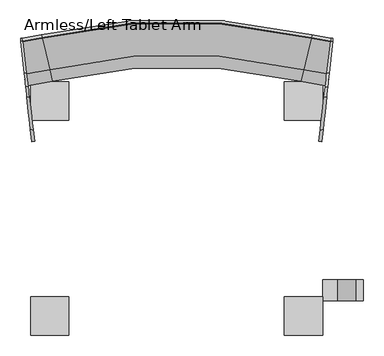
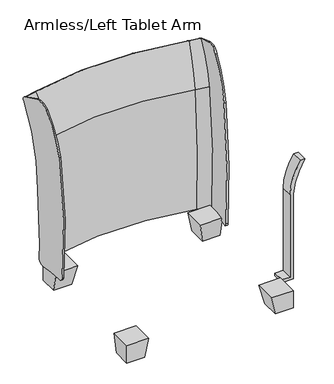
"""IFC4 building model written with IfcOpenShell, lengths in millimetres: furniture geometry, Steelcase Turnstone - Jenny - Seating - Lounge Chair : Armless/Left Tablet Arm."""

from ifc_helpers import new_model, si_unit, point, frame, frame_2d, origin, origin_with_axes, place, context, project, spatial, polyline, circle_curve, ellipse_curve, trimmed, segment, composite_curve, outline, extrude, faceted_brep, source, transform, mapped, element, save
from ifc_brep_helpers import plane_surface, revolved_surface, advanced_brep


def armless_left_tablet_arm_b0379768(model_context):
    return source(origin(), model_context, "Body", "SolidModel", [
        extrude(outline(composite_curve([segment(trimmed(circle_curve(frame_2d((-317.4695755, 631.5743694)), 14.4058816), [point((-317.4695755, 645.9802509))], [point((-317.4695755, 617.1684878))], False, "CARTESIAN"), True, "CONTINUOUS"), segment(trimmed(circle_curve(frame_2d((-317.4695755, 631.5743694)), 14.4058816), [point((-317.4695755, 617.1684878))], [point((-317.4695755, 645.9802509))], False, "CARTESIAN"), True, "CONTINUOUS")], self_intersect=False)), origin_with_axes(), (0.0, 0.0, 1.0), 7.083069),
        extrude(outline(composite_curve([segment(trimmed(circle_curve(frame_2d((318.3480103, 631.2568742)), 14.4535487), [point((318.3480103, 645.7104229))], [point((318.3480103, 616.8033255))], False, "CARTESIAN"), True, "CONTINUOUS"), segment(trimmed(circle_curve(frame_2d((318.3480103, 631.2568742)), 14.4535487), [point((318.3480103, 616.8033255))], [point((318.3480103, 645.7104229))], False, "CARTESIAN"), True, "CONTINUOUS")], self_intersect=False)), origin_with_axes(), (0.0, 0.0, 1.0), 7.083069),
        faceted_brep([(279.1777267, 593.0641473, 7.083069), (279.1777267, 669.2641473, 7.083069), (355.3777267, 669.2641473, 7.083069), (355.3777267, 593.0641473, 7.083069), (261.9561035, 575.8429601, 95.4116322), (355.3777267, 575.8429601, 95.4116322), (355.3777267, 669.2641473, 95.4116322), (261.9561035, 669.2641473, 95.4116322)], [[[0, 1, 2, 3]], [[4, 5, 6, 7]], [[4, 7, 1, 0]], [[7, 6, 2, 1]], [[6, 5, 3, 2]], [[5, 4, 0, 3]]]),
        faceted_brep([(-279.1777267, 593.0641473, 7.083069), (-355.3777267, 593.0641473, 7.083069), (-355.3777267, 669.2641473, 7.083069), (-279.1777267, 669.2641473, 7.083069), (-261.9561035, 575.8429601, 95.4116322), (-261.9561035, 669.2641473, 95.4116322), (-355.3777267, 669.2641473, 95.4116322), (-355.3777267, 575.8429601, 95.4116322)], [[[0, 1, 2, 3]], [[4, 5, 6, 7]], [[4, 7, 1, 0]], [[7, 6, 2, 1]], [[6, 5, 3, 2]], [[5, 4, 0, 3]]]),
        extrude(outline(composite_curve([segment(trimmed(circle_curve(frame_2d((-317.4695755, 90.6150358)), 14.4058816), [point((-317.4695755, 76.2091543))], [point((-317.4695755, 105.0209174))], False, "CARTESIAN"), True, "CONTINUOUS"), segment(trimmed(circle_curve(frame_2d((-317.4695755, 90.6150358)), 14.4058816), [point((-317.4695755, 105.0209174))], [point((-317.4695755, 76.2091543))], False, "CARTESIAN"), True, "CONTINUOUS")], self_intersect=False)), origin_with_axes(), (0.0, 0.0, 1.0), 7.083069),
        extrude(outline(composite_curve([segment(trimmed(circle_curve(frame_2d((318.3480103, 90.932531)), 14.4535487), [point((318.3480103, 76.4789822))], [point((318.3480103, 105.3860797))], False, "CARTESIAN"), True, "CONTINUOUS"), segment(trimmed(circle_curve(frame_2d((318.3480103, 90.932531)), 14.4535487), [point((318.3480103, 105.3860797))], [point((318.3480103, 76.4789822))], False, "CARTESIAN"), True, "CONTINUOUS")], self_intersect=False)), origin_with_axes(), (0.0, 0.0, 1.0), 7.083069),
        faceted_brep([(279.1777267, 129.1252579, 7.083069), (355.3777267, 129.1252579, 7.083069), (355.3777267, 52.9252579, 7.083069), (279.1777267, 52.9252579, 7.083069), (261.9561035, 146.3464451, 85.2737648), (261.9561035, 52.9252579, 85.2737648), (355.3777267, 52.9252579, 85.2737648), (355.3777267, 146.3464451, 85.2737648)], [[[0, 1, 2, 3]], [[4, 5, 6, 7]], [[4, 7, 1, 0]], [[7, 6, 2, 1]], [[6, 5, 3, 2]], [[5, 4, 0, 3]]]),
        faceted_brep([(-279.1777267, 129.1252579, 7.083069), (-279.1777267, 52.9252579, 7.083069), (-355.3777267, 52.9252579, 7.083069), (-355.3777267, 129.1252579, 7.083069), (-261.9561035, 146.3464451, 85.2737648), (-355.3777267, 146.3464451, 85.2737648), (-355.3777267, 52.9252579, 85.2737648), (-261.9561035, 52.9252579, 85.2737648)], [[[0, 1, 2, 3]], [[4, 5, 6, 7]], [[4, 7, 1, 0]], [[7, 6, 2, 1]], [[6, 5, 3, 2]], [[5, 4, 0, 3]]]),
        extrude(outline(composite_curve([segment(trimmed(circle_curve(frame_2d((419.0031767, 717.5978054)), 315.1303859), [point((451.6044174, 404.1583068))], [point((592.311266, 454.4030746))], True, "CARTESIAN"), True, "CONTINUOUS"), segment(polyline([(592.311266, 454.4030746), (592.311266, 436.9906051)]), True, "CONTINUOUS"), segment(trimmed(circle_curve(frame_2d((452.3250069, 629.4150539)), 237.9565533), [point((592.311266, 436.9906051))], [point((452.3250069, 391.4585006))], False, "CARTESIAN"), True, "CONTINUOUS"), segment(polyline([(452.3250069, 391.4585006), (81.9210443, 391.4585006), (81.9210443, 355.6), (69.2210428, 355.6), (69.2210428, 404.1583068), (451.6044174, 404.1583068)]), True, "CONTINUOUS")], self_intersect=False)), frame((0.0, 136.9954231, 0.0), z_axis=(0.0, 1.0, 0.0), x_axis=(0.0, 0.0, 1.0)), (0.0, 0.0, 1.0), 50.8000242),
        advanced_brep(
        [(-365.0328558, 688.9118721, 614.3798536), (-374.2086501, 766.5758751, 782.0850534), (-374.4577532, 768.6842856, 781.0193185), (-375.0846857, 773.9906478, 763.3929272), (-364.7240839, 686.2984239, 412.1857232), (-363.5844919, 676.6529077, 226.5942002), (-363.549176, 676.3539931, 111.3923483), (-362.6401057, 668.6596146, 90.0869227), (-327.0674538, 775.0009474, 782.0850534), (-308.774252, 698.9664071, 614.3798536), (-327.5640748, 777.0651215, 781.0193185), (-328.8139506, 782.2601513, 763.3929272), (-308.1586729, 696.4077914, 412.1857232), (-305.8867403, 686.964647, 226.5942002), (-305.8163331, 686.6720039, 111.3923483), (-304.0039772, 679.1390607, 90.0869227), (327.0674538, 775.0009474, 782.0850534), (308.774252, 698.9664071, 614.3798536), (327.5640748, 777.0651215, 781.0193185), (328.8139506, 782.2601513, 763.3929272), (308.1586729, 696.4077914, 412.1857232), (305.8867403, 686.964647, 226.5942002), (305.8163331, 686.6720039, 111.3923483), (304.0039772, 679.1390607, 90.0869227), (365.0328558, 688.9118721, 614.3798536), (362.6401057, 668.6596146, 90.0869227), (363.549176, 676.3539931, 111.3923483), (363.5844919, 676.6529077, 226.5942002), (364.7240839, 686.2984239, 412.1857232), (375.0846857, 773.9906478, 763.3929272), (374.4577532, 768.6842856, 781.0193185), (374.2086501, 766.5758751, 782.0850534)],
        [
            (0, 1, circle_curve(frame((-406.9820142, 1043.9699138, 549.7445151), z_axis=(-0.9930928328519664, -0.11733126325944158, 0.0), x_axis=(-0.11733126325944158, 0.9930928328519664, 0.0)), 363.3230957)),
            (1, 2),
            (2, 3, circle_curve(frame((-373.7892515, 763.0260816, 769.6690835), z_axis=(-0.9930928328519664, -0.11733126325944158, 0.0), x_axis=(-0.11733126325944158, 0.9930928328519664, 0.0)), 12.7)),
            (3, 4, circle_curve(frame((-444.1840732, 1358.8484643, 428.618251), z_axis=(0.9930928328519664, 0.11733126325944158, 0.0), x_axis=(-0.11733126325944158, 0.9930928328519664, 0.0)), 677.4270991)),
            (4, 5, circle_curve(frame((-222.1914301, -520.0991972, 382.7096079), z_axis=(-0.9930928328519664, -0.11733126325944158, 0.0), x_axis=(-0.11733126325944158, 0.9930928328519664, 0.0)), 1215.145925)),
            (5, 6, circle_curve(frame((-416.8275775, 1127.3028473, 167.8072561), z_axis=(0.9930928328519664, 0.11733126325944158, 0.0), x_axis=(-0.11733126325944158, 0.9930928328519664, 0.0)), 457.5763313)),
            (6, 7, circle_curve(frame((-360.6485798, 651.8033223, 108.3209937), z_axis=(-0.9930928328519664, -0.11733126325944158, 0.0), x_axis=(-0.11733126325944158, 0.9930928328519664, 0.0)), 24.9114856)),
            (7, 0, circle_curve(frame((-582.1375659, 2526.4880272, 279.8645269), z_axis=(-0.9930928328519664, -0.11733126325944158, 0.0), x_axis=(-0.11733126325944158, 0.9930928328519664, 0.0)), 1880.3513194)),
            (8, 1, circle_curve(frame((-421.6517332, 1168.1345426, 782.0850534), z_axis=(0.0, 0.0, -1.0), x_axis=(0.1173312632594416, -0.9930928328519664, 0.0)), 404.3515915)),
            (0, 9, circle_curve(frame((-421.6517332, 1168.1345426, 614.3798536), z_axis=(0.0, 0.0, 1.0), x_axis=(0.1173312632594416, -0.9930928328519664, 0.0)), 482.5557637)),
            (9, 8, circle_curve(frame((-392.4056407, 1046.5750026, 549.7445151), z_axis=(-0.9722568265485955, -0.2339159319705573, 0.0), x_axis=(-0.2339159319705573, 0.9722568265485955, 0.0)), 363.3230957)),
            (10, 2, circle_curve(frame((-421.6517332, 1168.1345426, 781.0193185), z_axis=(0.0, 0.0, -1.0), x_axis=(0.1173312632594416, -0.9930928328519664, 0.0)), 402.2285166)),
            (8, 10),
            (11, 3, circle_curve(frame((-421.6517332, 1168.1345426, 763.3929272), z_axis=(0.0, 0.0, -1.0), x_axis=(0.1173312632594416, -0.9930928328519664, 0.0)), 396.8852475)),
            (10, 11, circle_curve(frame((-326.2313253, 771.5256318, 769.6690835), z_axis=(-0.9722568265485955, -0.23391593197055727, 0.0), x_axis=(-0.23391593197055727, 0.9722568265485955, 0.0)), 12.7)),
            (12, 4, circle_curve(frame((-421.6517332, 1168.1345426, 412.1857232), z_axis=(0.0, 0.0, -1.0), x_axis=(0.1173312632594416, -0.9930928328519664, 0.0)), 485.187389)),
            (11, 12, circle_curve(frame((-466.5730368, 1354.8471098, 428.618251), z_axis=(0.9722568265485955, 0.23391593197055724, 0.0), x_axis=(-0.23391593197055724, 0.9722568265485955, 0.0)), 677.4270991)),
            (13, 5, circle_curve(frame((-421.6517332, 1168.1345426, 226.5942002), z_axis=(0.0, 0.0, -1.0), x_axis=(0.1173312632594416, -0.9930928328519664, 0.0)), 494.8999918)),
            (12, 13, circle_curve(frame((-24.0003198, -484.6784917, 382.7096079), z_axis=(-0.9722568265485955, -0.23391593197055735, 0.0), x_axis=(-0.23391593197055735, 0.9722568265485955, 0.0)), 1215.145925)),
            (14, 6, circle_curve(frame((-421.6517332, 1168.1345426, 111.3923483), z_axis=(0.0, 0.0, -1.0), x_axis=(0.1173312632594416, -0.9930928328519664, 0.0)), 495.2009855)),
            (13, 14, circle_curve(frame((-412.0341186, 1128.159534, 167.8072561), z_axis=(0.9722568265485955, 0.23391593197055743, 0.0), x_axis=(-0.23391593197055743, 0.9722568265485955, 0.0)), 457.5763313)),
            (15, 7, circle_curve(frame((-421.6517332, 1168.1345426, 90.0869227), z_axis=(0.0, 0.0, -1.0), x_axis=(0.1173312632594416, -0.9930928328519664, 0.0)), 502.9488799)),
            (14, 15, circle_curve(frame((-300.0335978, 662.6364289, 108.3209937), z_axis=(-0.9722568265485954, -0.2339159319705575, 0.0), x_axis=(-0.2339159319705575, 0.9722568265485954, 0.0)), 24.9114856)),
            (15, 9, circle_curve(frame((-741.6022058, 2497.9885145, 279.8645269), z_axis=(-0.9722568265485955, -0.23391593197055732, 0.0), x_axis=(-0.23391593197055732, 0.9722568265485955, 0.0)), 1880.3513194)),
            (16, 8, circle_curve(frame((0.0, -584.4343079, 782.0850534), z_axis=(0.0, 0.0, 1.0), x_axis=(-0.23391593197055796, 0.9722568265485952, 0.0)), 1398.2264955)),
            (9, 17, circle_curve(frame((0.0, -584.4343079, 614.3798536), z_axis=(0.0, 0.0, -1.0), x_axis=(-0.23391593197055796, 0.9722568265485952, 0.0)), 1320.0223232)),
            (17, 16, circle_curve(frame((392.4056407, 1046.5750026, 549.7445151), z_axis=(-0.972256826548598, 0.23391593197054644, 0.0), x_axis=(0.23391593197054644, 0.972256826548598, 0.0)), 363.3230957)),
            (18, 10, circle_curve(frame((0.0, -584.4343079, 781.0193185), z_axis=(0.0, 0.0, 1.0), x_axis=(-0.23391593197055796, 0.9722568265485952, 0.0)), 1400.3495704)),
            (16, 18),
            (19, 11, circle_curve(frame((0.0, -584.4343079, 763.3929272), z_axis=(0.0, 0.0, 1.0), x_axis=(-0.23391593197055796, 0.9722568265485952, 0.0)), 1405.6928394)),
            (18, 19, circle_curve(frame((326.2313253, 771.5256318, 769.6690835), z_axis=(-0.9722568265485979, 0.233915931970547, 0.0), x_axis=(0.233915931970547, 0.9722568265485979, 0.0)), 12.7)),
            (20, 12, circle_curve(frame((0.0, -584.4343079, 412.1857232), z_axis=(0.0, 0.0, 1.0), x_axis=(-0.23391593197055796, 0.9722568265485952, 0.0)), 1317.3906979)),
            (19, 20, circle_curve(frame((466.5730368, 1354.8471098, 428.618251), z_axis=(0.9722568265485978, -0.2339159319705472, 0.0), x_axis=(0.2339159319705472, 0.9722568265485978, 0.0)), 677.4270991)),
            (21, 13, circle_curve(frame((0.0, -584.4343079, 226.5942002), z_axis=(0.0, 0.0, 1.0), x_axis=(-0.23391593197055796, 0.9722568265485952, 0.0)), 1307.6780951)),
            (20, 21, circle_curve(frame((24.0003198, -484.6784917, 382.7096079), z_axis=(-0.972256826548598, 0.2339159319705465, 0.0), x_axis=(0.2339159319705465, 0.972256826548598, 0.0)), 1215.145925)),
            (22, 14, circle_curve(frame((0.0, -584.4343079, 111.3923483), z_axis=(0.0, 0.0, 1.0), x_axis=(-0.23391593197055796, 0.9722568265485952, 0.0)), 1307.3771015)),
            (21, 22, circle_curve(frame((412.0341186, 1128.159534, 167.8072561), z_axis=(0.972256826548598, -0.2339159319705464, 0.0), x_axis=(0.2339159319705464, 0.972256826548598, 0.0)), 457.5763313)),
            (23, 15, circle_curve(frame((0.0, -584.4343079, 90.0869227), z_axis=(0.0, 0.0, 1.0), x_axis=(-0.23391593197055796, 0.9722568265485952, 0.0)), 1299.629207)),
            (22, 23, circle_curve(frame((300.0335978, 662.6364289, 108.3209937), z_axis=(-0.972256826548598, 0.2339159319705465, 0.0), x_axis=(0.2339159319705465, 0.972256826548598, 0.0)), 24.9114856)),
            (23, 17, circle_curve(frame((741.6022058, 2497.9885145, 279.8645269), z_axis=(-0.9722568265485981, 0.23391593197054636, 0.0), x_axis=(0.23391593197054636, 0.9722568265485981, 0.0)), 1880.3513194)),
            (24, 25, circle_curve(frame((582.1375659, 2526.4880272, 279.8645269), z_axis=(0.9930928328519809, -0.11733126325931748, 0.0), x_axis=(0.11733126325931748, 0.9930928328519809, 0.0)), 1880.3513194)),
            (25, 26, circle_curve(frame((360.6485798, 651.8033223, 108.3209937), z_axis=(0.9930928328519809, -0.11733126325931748, 0.0), x_axis=(0.11733126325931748, 0.9930928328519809, 0.0)), 24.9114856)),
            (26, 27, circle_curve(frame((416.8275775, 1127.3028473, 167.8072561), z_axis=(-0.9930928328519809, 0.11733126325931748, 0.0), x_axis=(0.11733126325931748, 0.9930928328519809, 0.0)), 457.5763313)),
            (27, 28, circle_curve(frame((222.1914301, -520.0991972, 382.7096079), z_axis=(0.9930928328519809, -0.11733126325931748, 0.0), x_axis=(0.11733126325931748, 0.9930928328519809, 0.0)), 1215.145925)),
            (28, 29, circle_curve(frame((444.1840732, 1358.8484643, 428.618251), z_axis=(-0.9930928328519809, 0.11733126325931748, 0.0), x_axis=(0.11733126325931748, 0.9930928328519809, 0.0)), 677.4270991)),
            (29, 30, circle_curve(frame((373.7892515, 763.0260816, 769.6690835), z_axis=(0.9930928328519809, -0.11733126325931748, 0.0), x_axis=(0.11733126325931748, 0.9930928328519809, 0.0)), 12.7)),
            (30, 31),
            (31, 24, circle_curve(frame((406.9820142, 1043.9699138, 549.7445151), z_axis=(0.9930928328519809, -0.11733126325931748, 0.0), x_axis=(0.11733126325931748, 0.9930928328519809, 0.0)), 363.3230957)),
            (31, 16, circle_curve(frame((421.6517332, 1168.1345426, 782.0850534), z_axis=(0.0, 0.0, -1.0), x_axis=(-0.2339159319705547, -0.972256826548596, 0.0)), 404.3515915)),
            (17, 24, circle_curve(frame((421.6517332, 1168.1345426, 614.3798536), z_axis=(0.0, 0.0, 1.0), x_axis=(-0.2339159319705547, -0.972256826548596, 0.0)), 482.5557637)),
            (30, 18, circle_curve(frame((421.6517332, 1168.1345426, 781.0193185), z_axis=(0.0, 0.0, -1.0), x_axis=(-0.2339159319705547, -0.972256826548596, 0.0)), 402.2285166)),
            (29, 19, circle_curve(frame((421.6517332, 1168.1345426, 763.3929272), z_axis=(0.0, 0.0, -1.0), x_axis=(-0.2339159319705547, -0.972256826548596, 0.0)), 396.8852475)),
            (28, 20, circle_curve(frame((421.6517332, 1168.1345426, 412.1857232), z_axis=(0.0, 0.0, -1.0), x_axis=(-0.2339159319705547, -0.972256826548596, 0.0)), 485.187389)),
            (27, 21, circle_curve(frame((421.6517332, 1168.1345426, 226.5942002), z_axis=(0.0, 0.0, -1.0), x_axis=(-0.2339159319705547, -0.972256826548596, 0.0)), 494.8999918)),
            (26, 22, circle_curve(frame((421.6517332, 1168.1345426, 111.3923483), z_axis=(0.0, 0.0, -1.0), x_axis=(-0.2339159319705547, -0.972256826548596, 0.0)), 495.2009855)),
            (25, 23, circle_curve(frame((421.6517332, 1168.1345426, 90.0869227), z_axis=(0.0, 0.0, -1.0), x_axis=(-0.2339159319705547, -0.972256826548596, 0.0)), 502.9488799)),
        ],
        [
            plane_surface(frame((-355.6, 609.0720985, 0.0), z_axis=(-0.9930928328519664, -0.1173312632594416, 0.0), x_axis=(0.0, 0.0, 1.0))),
            revolved_surface(trimmed(ellipse_curve(frame((-406.9820142, 1043.9699138, 549.7445151), z_axis=(-0.9930928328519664, -0.11733126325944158, 0.0), x_axis=(-0.11733126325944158, 0.9930928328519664, 0.0)), 363.3230957, 363.3230957), [point((-365.0328558, 688.9118721, 614.3798536))], [point((-374.2086501, 766.5758751, 782.0850534))], True, "CARTESIAN"), (-421.6517332, 1168.1345426, 0.0), (0.0, 0.0, 1.0)),
            revolved_surface(polyline([(-374.2086501, 766.5758751, 782.0850534), (-374.4577532, 768.6842856, 781.0193185)]), (-421.6517332, 1168.1345426, 0.0), (0.0, 0.0, 1.0)),
            revolved_surface(trimmed(ellipse_curve(frame((-373.7892515, 763.0260816, 769.6690835), z_axis=(-0.9930928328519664, -0.11733126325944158, 0.0), x_axis=(-0.11733126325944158, 0.9930928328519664, 0.0)), 12.7, 12.7), [point((-374.4577532, 768.6842856, 781.0193185))], [point((-375.0846857, 773.9906478, 763.3929272))], True, "CARTESIAN"), (-421.6517332, 1168.1345426, 0.0), (0.0, 0.0, 1.0)),
            revolved_surface(trimmed(ellipse_curve(frame((-444.1840732, 1358.8484643, 428.618251), z_axis=(0.9930928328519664, 0.11733126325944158, 0.0), x_axis=(-0.11733126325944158, 0.9930928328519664, 0.0)), 677.4270991, 677.4270991), [point((-375.0846857, 773.9906478, 763.3929272))], [point((-364.7240839, 686.2984239, 412.1857232))], True, "CARTESIAN"), (-421.6517332, 1168.1345426, 0.0), (0.0, 0.0, 1.0)),
            revolved_surface(trimmed(ellipse_curve(frame((-222.1914301, -520.0991972, 382.7096079), z_axis=(-0.9930928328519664, -0.11733126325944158, 0.0), x_axis=(-0.11733126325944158, 0.9930928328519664, 0.0)), 1215.145925, 1215.145925), [point((-364.7240839, 686.2984239, 412.1857232))], [point((-363.5844919, 676.6529077, 226.5942002))], True, "CARTESIAN"), (-421.6517332, 1168.1345426, 0.0), (0.0, 0.0, 1.0)),
            revolved_surface(trimmed(ellipse_curve(frame((-416.8275775, 1127.3028473, 167.8072561), z_axis=(0.9930928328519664, 0.11733126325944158, 0.0), x_axis=(-0.11733126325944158, 0.9930928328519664, 0.0)), 457.5763313, 457.5763313), [point((-363.5844919, 676.6529077, 226.5942002))], [point((-363.549176, 676.3539931, 111.3923483))], True, "CARTESIAN"), (-421.6517332, 1168.1345426, 0.0), (0.0, 0.0, 1.0)),
            revolved_surface(trimmed(ellipse_curve(frame((-360.6485798, 651.8033223, 108.3209937), z_axis=(-0.9930928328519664, -0.11733126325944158, 0.0), x_axis=(-0.11733126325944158, 0.9930928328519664, 0.0)), 24.9114856, 24.9114856), [point((-363.549176, 676.3539931, 111.3923483))], [point((-362.6401057, 668.6596146, 90.0869227))], True, "CARTESIAN"), (-421.6517332, 1168.1345426, 0.0), (0.0, 0.0, 1.0)),
            revolved_surface(trimmed(ellipse_curve(frame((-582.1375659, 2526.4880272, 279.8645269), z_axis=(-0.9930928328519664, -0.11733126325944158, 0.0), x_axis=(-0.11733126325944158, 0.9930928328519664, 0.0)), 1880.3513194, 1880.3513194), [point((-362.6401057, 668.6596146, 90.0869227))], [point((-365.0328558, 688.9118721, 614.3798536))], True, "CARTESIAN"), (-421.6517332, 1168.1345426, 0.0), (0.0, 0.0, 1.0)),
            revolved_surface(trimmed(ellipse_curve(frame((-392.4056407, 1046.5750026, 549.7445151), z_axis=(-0.9722568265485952, -0.23391593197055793, 0.0), x_axis=(-0.23391593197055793, 0.9722568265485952, 0.0)), 363.3230957, 363.3230957), [point((-308.774252, 698.9664071, 614.3798536))], [point((-327.0674538, 775.0009474, 782.0850534))], True, "CARTESIAN"), (0.0, -584.4343079, 0.0), (0.0, 0.0, -1.0)),
            revolved_surface(polyline([(-327.0674538, 775.0009474, 782.0850534), (-327.5640748, 777.0651215, 781.0193185)]), (0.0, -584.4343079, 0.0), (0.0, 0.0, -1.0)),
            revolved_surface(trimmed(ellipse_curve(frame((-326.2313253, 771.5256318, 769.6690835), z_axis=(-0.9722568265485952, -0.23391593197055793, 0.0), x_axis=(-0.23391593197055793, 0.9722568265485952, 0.0)), 12.7, 12.7), [point((-327.5640748, 777.0651215, 781.0193185))], [point((-328.8139506, 782.2601513, 763.3929272))], True, "CARTESIAN"), (0.0, -584.4343079, 0.0), (0.0, 0.0, -1.0)),
            revolved_surface(trimmed(ellipse_curve(frame((-466.5730368, 1354.8471098, 428.618251), z_axis=(0.9722568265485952, 0.23391593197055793, 0.0), x_axis=(-0.23391593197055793, 0.9722568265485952, 0.0)), 677.4270991, 677.4270991), [point((-328.8139506, 782.2601513, 763.3929272))], [point((-308.1586729, 696.4077914, 412.1857232))], True, "CARTESIAN"), (0.0, -584.4343079, 0.0), (0.0, 0.0, -1.0)),
            revolved_surface(trimmed(ellipse_curve(frame((-24.0003198, -484.6784917, 382.7096079), z_axis=(-0.9722568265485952, -0.23391593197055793, 0.0), x_axis=(-0.23391593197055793, 0.9722568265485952, 0.0)), 1215.145925, 1215.145925), [point((-308.1586729, 696.4077914, 412.1857232))], [point((-305.8867403, 686.964647, 226.5942002))], True, "CARTESIAN"), (0.0, -584.4343079, 0.0), (0.0, 0.0, -1.0)),
            revolved_surface(trimmed(ellipse_curve(frame((-412.0341186, 1128.159534, 167.8072561), z_axis=(0.9722568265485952, 0.23391593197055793, 0.0), x_axis=(-0.23391593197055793, 0.9722568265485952, 0.0)), 457.5763313, 457.5763313), [point((-305.8867403, 686.964647, 226.5942002))], [point((-305.8163331, 686.6720039, 111.3923483))], True, "CARTESIAN"), (0.0, -584.4343079, 0.0), (0.0, 0.0, -1.0)),
            revolved_surface(trimmed(ellipse_curve(frame((-300.0335978, 662.6364289, 108.3209937), z_axis=(-0.9722568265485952, -0.23391593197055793, 0.0), x_axis=(-0.23391593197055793, 0.9722568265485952, 0.0)), 24.9114856, 24.9114856), [point((-305.8163331, 686.6720039, 111.3923483))], [point((-304.0039772, 679.1390607, 90.0869227))], True, "CARTESIAN"), (0.0, -584.4343079, 0.0), (0.0, 0.0, -1.0)),
            revolved_surface(trimmed(ellipse_curve(frame((-741.6022058, 2497.9885145, 279.8645269), z_axis=(-0.9722568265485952, -0.23391593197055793, 0.0), x_axis=(-0.23391593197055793, 0.9722568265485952, 0.0)), 1880.3513194, 1880.3513194), [point((-304.0039772, 679.1390607, 90.0869227))], [point((-308.774252, 698.9664071, 614.3798536))], True, "CARTESIAN"), (0.0, -584.4343079, 0.0), (0.0, 0.0, -1.0)),
            plane_surface(frame((355.6, 609.0720985, 0.0), z_axis=(0.993092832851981, -0.11733126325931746, 0.0), x_axis=(0.0, 0.0, 1.0))),
            revolved_surface(trimmed(ellipse_curve(frame((392.4056407, 1046.5750026, 549.7445151), z_axis=(-0.972256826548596, 0.2339159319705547, 0.0), x_axis=(0.2339159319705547, 0.972256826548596, 0.0)), 363.3230957, 363.3230957), [point((308.774252, 698.9664071, 614.3798536))], [point((327.0674538, 775.0009474, 782.0850534))], True, "CARTESIAN"), (421.6517332, 1168.1345426, 0.0), (0.0, 0.0, 1.0)),
            revolved_surface(polyline([(327.0674538, 775.0009474, 782.0850534), (327.5640748, 777.0651215, 781.0193185)]), (421.6517332, 1168.1345426, 0.0), (0.0, 0.0, 1.0)),
            revolved_surface(trimmed(ellipse_curve(frame((326.2313253, 771.5256318, 769.6690835), z_axis=(-0.972256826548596, 0.2339159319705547, 0.0), x_axis=(0.2339159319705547, 0.972256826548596, 0.0)), 12.7, 12.7), [point((327.5640748, 777.0651215, 781.0193185))], [point((328.8139506, 782.2601513, 763.3929272))], True, "CARTESIAN"), (421.6517332, 1168.1345426, 0.0), (0.0, 0.0, 1.0)),
            revolved_surface(trimmed(ellipse_curve(frame((466.5730368, 1354.8471098, 428.618251), z_axis=(0.972256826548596, -0.2339159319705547, 0.0), x_axis=(0.2339159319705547, 0.972256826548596, 0.0)), 677.4270991, 677.4270991), [point((328.8139506, 782.2601513, 763.3929272))], [point((308.1586729, 696.4077914, 412.1857232))], True, "CARTESIAN"), (421.6517332, 1168.1345426, 0.0), (0.0, 0.0, 1.0)),
            revolved_surface(trimmed(ellipse_curve(frame((24.0003198, -484.6784917, 382.7096079), z_axis=(-0.972256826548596, 0.2339159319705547, 0.0), x_axis=(0.2339159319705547, 0.972256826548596, 0.0)), 1215.145925, 1215.145925), [point((308.1586729, 696.4077914, 412.1857232))], [point((305.8867403, 686.964647, 226.5942002))], True, "CARTESIAN"), (421.6517332, 1168.1345426, 0.0), (0.0, 0.0, 1.0)),
            revolved_surface(trimmed(ellipse_curve(frame((412.0341186, 1128.159534, 167.8072561), z_axis=(0.972256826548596, -0.2339159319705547, 0.0), x_axis=(0.2339159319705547, 0.972256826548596, 0.0)), 457.5763313, 457.5763313), [point((305.8867403, 686.964647, 226.5942002))], [point((305.8163331, 686.6720039, 111.3923483))], True, "CARTESIAN"), (421.6517332, 1168.1345426, 0.0), (0.0, 0.0, 1.0)),
            revolved_surface(trimmed(ellipse_curve(frame((300.0335978, 662.6364289, 108.3209937), z_axis=(-0.972256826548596, 0.2339159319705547, 0.0), x_axis=(0.2339159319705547, 0.972256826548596, 0.0)), 24.9114856, 24.9114856), [point((305.8163331, 686.6720039, 111.3923483))], [point((304.0039772, 679.1390607, 90.0869227))], True, "CARTESIAN"), (421.6517332, 1168.1345426, 0.0), (0.0, 0.0, 1.0)),
            revolved_surface(trimmed(ellipse_curve(frame((741.6022058, 2497.9885145, 279.8645269), z_axis=(-0.972256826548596, 0.2339159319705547, 0.0), x_axis=(0.2339159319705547, 0.972256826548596, 0.0)), 1880.3513194, 1880.3513194), [point((304.0039772, 679.1390607, 90.0869227))], [point((308.774252, 698.9664071, 614.3798536))], True, "CARTESIAN"), (421.6517332, 1168.1345426, 0.0), (0.0, 0.0, 1.0)),
        ],
        [
            (0, [[1, 2, 3, 4, 5, 6, 7, 8]]),
            (1, [[9, -1, 10, 11]]),
            (2, [[12, -2, -9, 13]]),
            (3, [[14, -3, -12, 15]]),
            (4, [[16, -4, -14, 17]]),
            (5, [[18, -5, -16, 19]]),
            (6, [[20, -6, -18, 21]]),
            (7, [[22, -7, -20, 23]]),
            (8, [[-10, -8, -22, 24]]),
            (9, [[25, -11, 26, 27]]),
            (10, [[28, -13, -25, 29]]),
            (11, [[30, -15, -28, 31]]),
            (12, [[32, -17, -30, 33]]),
            (13, [[34, -19, -32, 35]]),
            (14, [[36, -21, -34, 37]]),
            (15, [[38, -23, -36, 39]]),
            (16, [[-26, -24, -38, 40]]),
            (17, [[41, 42, 43, 44, 45, 46, 47, 48]]),
            (18, [[49, -27, 50, -48]]),
            (19, [[51, -29, -49, -47]]),
            (20, [[52, -31, -51, -46]]),
            (21, [[53, -33, -52, -45]]),
            (22, [[54, -35, -53, -44]]),
            (23, [[55, -37, -54, -43]]),
            (24, [[56, -39, -55, -42]]),
            (25, [[-50, -40, -56, -41]]),
        ],
    ),
        advanced_brep(
        [(371.0231422, 690.4168678, 813.9027777), (367.5078894, 657.2478941, 814.4538477), (364.8381433, 632.056893, 797.7221008), (356.4068462, 552.5014564, 627.8736036), (354.3284196, 532.8899867, 97.0710008), (356.3949504, 552.3892108, 81.9987921), (366.5367036, 648.0840483, 83.5957513), (369.4625291, 675.6913448, 111.3923483), (369.4942508, 675.9906622, 226.5942002), (370.5178614, 685.6491753, 412.1857232), (379.8240192, 773.4595598, 763.3929272), (379.2608923, 768.1460475, 781.0193185), (365.286616, 691.0597009, 813.9027777), (374.4577532, 768.6842856, 781.0193185), (375.0846857, 773.9906478, 763.3929272), (364.7240839, 686.2984239, 412.1857232), (363.5844919, 676.6529077, 226.5942002), (363.549176, 676.3539931, 111.3923483), (360.2918368, 648.7838459, 83.5957513), (349.0009614, 553.2177786, 81.9987921), (346.7002803, 533.7447933, 97.0710008), (349.0142051, 553.3298731, 627.8736036), (358.4008193, 632.7782572, 797.7221008), (361.3730638, 657.9353605, 814.4538477)],
        [
            (0, 1, circle_curve(frame((369.1763053, 672.9906155, 762.9432742), z_axis=(0.9944309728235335, -0.10538994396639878, 0.0), x_axis=(-0.10538994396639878, -0.9944309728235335, 0.0)), 53.8883667)),
            (1, 2, circle_curve(frame((369.1763053, 672.9906155, 762.9432742), z_axis=(0.9944309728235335, -0.10538994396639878, 0.0), x_axis=(-0.10538994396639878, -0.9944309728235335, 0.0)), 53.8883667)),
            (2, 3, circle_curve(frame((394.086654, 908.03792, 563.2382651), z_axis=(0.9944309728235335, -0.10538994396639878, 0.0), x_axis=(-0.10538994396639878, -0.9944309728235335, 0.0)), 363.3230957)),
            (3, 4, circle_curve(frame((551.415854, 2392.5536479, 293.3582769), z_axis=(0.9944309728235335, -0.10538994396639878, 0.0), x_axis=(-0.10538994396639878, -0.9944309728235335, 0.0)), 1880.3513194)),
            (4, 5, circle_curve(frame((356.1164347, 549.7612128, 98.8517567), z_axis=(0.9944309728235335, -0.10538994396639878, 0.0), x_axis=(-0.10538994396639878, -0.9944309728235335, 0.0)), 17.0589085)),
            (5, 6, circle_curve(frame((362.0675508, 605.9143321, -261.2499371), z_axis=(-0.9944309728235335, 0.10538994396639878, 0.0), x_axis=(-0.10538994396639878, -0.9944309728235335, 0.0)), 347.443243)),
            (6, 7, circle_curve(frame((366.8571394, 651.1075933, 108.3209937), z_axis=(0.9944309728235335, -0.10538994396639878, 0.0), x_axis=(-0.10538994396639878, -0.9944309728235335, 0.0)), 24.9114856)),
            (7, 8, circle_curve(frame((417.3185531, 1127.2478287, 167.8072561), z_axis=(-0.9944309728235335, 0.10538994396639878, 0.0), x_axis=(-0.10538994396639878, -0.9944309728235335, 0.0)), 457.5763313)),
            (8, 9, circle_curve(frame((242.4913834, -522.3740028, 382.7096079), z_axis=(0.9944309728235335, -0.10538994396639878, 0.0), x_axis=(-0.10538994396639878, -0.9944309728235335, 0.0)), 1215.145925)),
            (9, 10, circle_curve(frame((441.8908577, 1359.1054412, 428.618251), z_axis=(-0.9944309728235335, 0.10538994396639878, 0.0), x_axis=(-0.10538994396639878, -0.9944309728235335, 0.0)), 677.4270991)),
            (10, 11, circle_curve(frame((378.660427, 762.4802194, 769.6690835), z_axis=(0.9944309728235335, -0.10538994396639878, 0.0), x_axis=(-0.10538994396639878, -0.9944309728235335, 0.0)), 12.7)),
            (11, 0, circle_curve(frame((349.3215569, 485.6465852, 215.0940543), z_axis=(0.9944309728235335, -0.10538994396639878, 0.0), x_axis=(-0.10538994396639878, -0.9944309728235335, 0.0)), 633.2248531)),
            (12, 13, circle_curve(frame((341.1261096, 486.5649641, 215.0940543), z_axis=(-0.9930928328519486, 0.11733126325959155, 0.0), x_axis=(-0.11733126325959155, -0.9930928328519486, 0.0)), 633.2248531)),
            (13, 14, circle_curve(frame((373.7892515, 763.0260816, 769.6690835), z_axis=(-0.9930928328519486, 0.11733126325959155, 0.0), x_axis=(-0.11733126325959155, -0.9930928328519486, 0.0)), 12.7)),
            (14, 15, circle_curve(frame((444.1840732, 1358.8484643, 428.618251), z_axis=(0.9930928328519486, -0.11733126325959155, 0.0), x_axis=(-0.11733126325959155, -0.9930928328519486, 0.0)), 677.4270991)),
            (15, 16, circle_curve(frame((222.1914301, -520.0991972, 382.7096079), z_axis=(-0.9930928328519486, 0.11733126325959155, 0.0), x_axis=(-0.11733126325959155, -0.9930928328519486, 0.0)), 1215.145925)),
            (16, 17, circle_curve(frame((416.8275775, 1127.3028473, 167.8072561), z_axis=(0.9930928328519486, -0.11733126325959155, 0.0), x_axis=(-0.11733126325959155, -0.9930928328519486, 0.0)), 457.5763313)),
            (17, 18, circle_curve(frame((360.6485798, 651.8033223, 108.3209937), z_axis=(-0.9930928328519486, 0.11733126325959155, 0.0), x_axis=(-0.11733126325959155, -0.9930928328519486, 0.0)), 24.9114856)),
            (18, 19, circle_curve(frame((355.3163018, 606.6708747, -261.2499371), z_axis=(0.9930928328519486, -0.11733126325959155, 0.0), x_axis=(-0.11733126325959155, -0.9930928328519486, 0.0)), 347.443243)),
            (19, 20, circle_curve(frame((348.6908883, 550.5933169, 98.8517567), z_axis=(-0.9930928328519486, 0.11733126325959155, 0.0), x_axis=(-0.11733126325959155, -0.9930928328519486, 0.0)), 17.0589085)),
            (20, 21, circle_curve(frame((566.1189152, 2390.9060281, 293.3582769), z_axis=(-0.9930928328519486, 0.11733126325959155, 0.0), x_axis=(-0.11733126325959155, -0.9930928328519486, 0.0)), 1880.3513194)),
            (21, 22, circle_curve(frame((390.9633635, 908.3879148, 563.2382651), z_axis=(-0.9930928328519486, 0.11733126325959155, 0.0), x_axis=(-0.11733126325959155, -0.9930928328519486, 0.0)), 363.3230957)),
            (22, 23, circle_curve(frame((363.2305214, 673.6568979, 762.9432742), z_axis=(-0.9930928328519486, 0.11733126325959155, 0.0), x_axis=(-0.11733126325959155, -0.9930928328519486, 0.0)), 53.8883667)),
            (23, 12, circle_curve(frame((363.2305214, 673.6568979, 762.9432742), z_axis=(-0.9930928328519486, 0.11733126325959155, 0.0), x_axis=(-0.11733126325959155, -0.9930928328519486, 0.0)), 53.8883667)),
            (23, 1, circle_curve(frame((421.6517332, 1168.1345426, 814.4538477), z_axis=(0.0, 0.0, 1.0), x_axis=(-0.10538994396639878, -0.9944309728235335, 0.0)), 513.7477235)),
            (0, 12, circle_curve(frame((421.6517332, 1168.1345426, 813.9027777), z_axis=(0.0, 0.0, -1.0), x_axis=(-0.10538994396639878, -0.9944309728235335, 0.0)), 480.3929964)),
            (22, 2, circle_curve(frame((421.6517332, 1168.1345426, 797.7221008), z_axis=(0.0, 0.0, 1.0), x_axis=(-0.10538994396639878, -0.9944309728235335, 0.0)), 539.0797997)),
            (21, 3, circle_curve(frame((421.6517332, 1168.1345426, 627.8736036), z_axis=(0.0, 0.0, 1.0), x_axis=(-0.10538994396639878, -0.9944309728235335, 0.0)), 619.0807637)),
            (20, 4, circle_curve(frame((421.6517332, 1168.1345426, 97.0710008), z_axis=(0.0, 0.0, 1.0), x_axis=(-0.10538994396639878, -0.9944309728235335, 0.0)), 638.8020619)),
            (19, 5, circle_curve(frame((421.6517332, 1168.1345426, 81.9987921), z_axis=(0.0, 0.0, 1.0), x_axis=(-0.10538994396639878, -0.9944309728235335, 0.0)), 619.193638)),
            (18, 6, circle_curve(frame((421.6517332, 1168.1345426, 83.5957513), z_axis=(0.0, 0.0, 1.0), x_axis=(-0.10538994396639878, -0.9944309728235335, 0.0)), 522.9628888)),
            (17, 7, circle_curve(frame((421.6517332, 1168.1345426, 111.3923483), z_axis=(0.0, 0.0, 1.0), x_axis=(-0.10538994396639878, -0.9944309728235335, 0.0)), 495.2009855)),
            (16, 8, circle_curve(frame((421.6517332, 1168.1345426, 226.5942002), z_axis=(0.0, 0.0, 1.0), x_axis=(-0.10538994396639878, -0.9944309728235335, 0.0)), 494.8999918)),
            (15, 9, circle_curve(frame((421.6517332, 1168.1345426, 412.1857232), z_axis=(0.0, 0.0, 1.0), x_axis=(-0.10538994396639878, -0.9944309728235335, 0.0)), 485.187389)),
            (14, 10, circle_curve(frame((421.6517332, 1168.1345426, 763.3929272), z_axis=(0.0, 0.0, 1.0), x_axis=(-0.10538994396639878, -0.9944309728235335, 0.0)), 396.8852475)),
            (13, 11, circle_curve(frame((421.6517332, 1168.1345426, 781.0193185), z_axis=(0.0, 0.0, 1.0), x_axis=(-0.10538994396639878, -0.9944309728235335, 0.0)), 402.2285166)),
        ],
        [
            plane_surface(frame((362.3223757, 608.3187915, 0.0), z_axis=(0.9944309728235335, -0.10538994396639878, 0.0), x_axis=(0.0, 0.0, 1.0))),
            plane_surface(frame((355.6, 609.0720985, 0.0), z_axis=(-0.9930928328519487, 0.11733126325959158, 0.0), x_axis=(0.0, 0.0, 1.0))),
            revolved_surface(trimmed(ellipse_curve(frame((369.1763053, 672.9906155, 762.9432742), z_axis=(0.9944309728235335, -0.10538994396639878, 0.0), x_axis=(-0.10538994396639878, -0.9944309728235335, 0.0)), 53.8883667, 53.8883667), [point((371.0231422, 690.4168678, 813.9027777))], [point((367.5078894, 657.2478941, 814.4538477))], True, "CARTESIAN"), (421.6517332, 1168.1345426, 0.0), (0.0, 0.0, -1.0)),
            revolved_surface(trimmed(ellipse_curve(frame((369.1763053, 672.9906155, 762.9432742), z_axis=(0.9944309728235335, -0.10538994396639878, 0.0), x_axis=(-0.10538994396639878, -0.9944309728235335, 0.0)), 53.8883667, 53.8883667), [point((367.5078894, 657.2478941, 814.4538477))], [point((364.8381433, 632.056893, 797.7221008))], True, "CARTESIAN"), (421.6517332, 1168.1345426, 0.0), (0.0, 0.0, -1.0)),
            revolved_surface(trimmed(ellipse_curve(frame((394.086654, 908.03792, 563.2382651), z_axis=(0.9944309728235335, -0.10538994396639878, 0.0), x_axis=(-0.10538994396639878, -0.9944309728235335, 0.0)), 363.3230957, 363.3230957), [point((364.8381433, 632.056893, 797.7221008))], [point((356.4068462, 552.5014564, 627.8736036))], True, "CARTESIAN"), (421.6517332, 1168.1345426, 0.0), (0.0, 0.0, -1.0)),
            revolved_surface(trimmed(ellipse_curve(frame((551.415854, 2392.5536479, 293.3582769), z_axis=(0.9944309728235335, -0.10538994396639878, 0.0), x_axis=(-0.10538994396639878, -0.9944309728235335, 0.0)), 1880.3513194, 1880.3513194), [point((356.4068462, 552.5014564, 627.8736036))], [point((354.3284196, 532.8899867, 97.0710008))], True, "CARTESIAN"), (421.6517332, 1168.1345426, 0.0), (0.0, 0.0, -1.0)),
            revolved_surface(trimmed(ellipse_curve(frame((356.1164347, 549.7612128, 98.8517567), z_axis=(0.9944309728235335, -0.10538994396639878, 0.0), x_axis=(-0.10538994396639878, -0.9944309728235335, 0.0)), 17.0589085, 17.0589085), [point((354.3284196, 532.8899867, 97.0710008))], [point((356.3949504, 552.3892108, 81.9987921))], True, "CARTESIAN"), (421.6517332, 1168.1345426, 0.0), (0.0, 0.0, -1.0)),
            revolved_surface(trimmed(ellipse_curve(frame((362.0675508, 605.9143321, -261.2499371), z_axis=(-0.9944309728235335, 0.10538994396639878, 0.0), x_axis=(-0.10538994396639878, -0.9944309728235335, 0.0)), 347.443243, 347.443243), [point((356.3949504, 552.3892108, 81.9987921))], [point((366.5367036, 648.0840483, 83.5957513))], True, "CARTESIAN"), (421.6517332, 1168.1345426, 0.0), (0.0, 0.0, -1.0)),
            revolved_surface(trimmed(ellipse_curve(frame((366.8571394, 651.1075933, 108.3209937), z_axis=(0.9944309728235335, -0.10538994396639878, 0.0), x_axis=(-0.10538994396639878, -0.9944309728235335, 0.0)), 24.9114856, 24.9114856), [point((366.5367036, 648.0840483, 83.5957513))], [point((369.4625291, 675.6913448, 111.3923483))], True, "CARTESIAN"), (421.6517332, 1168.1345426, 0.0), (0.0, 0.0, -1.0)),
            revolved_surface(trimmed(ellipse_curve(frame((417.3185531, 1127.2478287, 167.8072561), z_axis=(-0.9944309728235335, 0.10538994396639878, 0.0), x_axis=(-0.10538994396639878, -0.9944309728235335, 0.0)), 457.5763313, 457.5763313), [point((369.4625291, 675.6913448, 111.3923483))], [point((369.4942508, 675.9906622, 226.5942002))], True, "CARTESIAN"), (421.6517332, 1168.1345426, 0.0), (0.0, 0.0, -1.0)),
            revolved_surface(trimmed(ellipse_curve(frame((242.4913834, -522.3740028, 382.7096079), z_axis=(0.9944309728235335, -0.10538994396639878, 0.0), x_axis=(-0.10538994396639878, -0.9944309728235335, 0.0)), 1215.145925, 1215.145925), [point((369.4942508, 675.9906622, 226.5942002))], [point((370.5178614, 685.6491753, 412.1857232))], True, "CARTESIAN"), (421.6517332, 1168.1345426, 0.0), (0.0, 0.0, -1.0)),
            revolved_surface(trimmed(ellipse_curve(frame((441.8908577, 1359.1054412, 428.618251), z_axis=(-0.9944309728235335, 0.10538994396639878, 0.0), x_axis=(-0.10538994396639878, -0.9944309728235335, 0.0)), 677.4270991, 677.4270991), [point((370.5178614, 685.6491753, 412.1857232))], [point((379.8240192, 773.4595598, 763.3929272))], True, "CARTESIAN"), (421.6517332, 1168.1345426, 0.0), (0.0, 0.0, -1.0)),
            revolved_surface(trimmed(ellipse_curve(frame((378.660427, 762.4802194, 769.6690835), z_axis=(0.9944309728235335, -0.10538994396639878, 0.0), x_axis=(-0.10538994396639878, -0.9944309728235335, 0.0)), 12.7, 12.7), [point((379.8240192, 773.4595598, 763.3929272))], [point((379.2608923, 768.1460475, 781.0193185))], True, "CARTESIAN"), (421.6517332, 1168.1345426, 0.0), (0.0, 0.0, -1.0)),
            revolved_surface(trimmed(ellipse_curve(frame((349.3215569, 485.6465852, 215.0940543), z_axis=(0.9944309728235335, -0.10538994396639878, 0.0), x_axis=(-0.10538994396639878, -0.9944309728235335, 0.0)), 633.2248531, 633.2248531), [point((379.2608923, 768.1460475, 781.0193185))], [point((371.0231422, 690.4168678, 813.9027777))], True, "CARTESIAN"), (421.6517332, 1168.1345426, 0.0), (0.0, 0.0, -1.0)),
        ],
        [
            (0, [[1, 2, 3, 4, 5, 6, 7, 8, 9, 10, 11, 12]]),
            (1, [[13, 14, 15, 16, 17, 18, 19, 20, 21, 22, 23, 24]]),
            (2, [[25, -1, 26, -24]]),
            (3, [[27, -2, -25, -23]]),
            (4, [[28, -3, -27, -22]]),
            (5, [[29, -4, -28, -21]]),
            (6, [[30, -5, -29, -20]]),
            (7, [[31, -6, -30, -19]]),
            (8, [[32, -7, -31, -18]]),
            (9, [[33, -8, -32, -17]]),
            (10, [[34, -9, -33, -16]]),
            (11, [[35, -10, -34, -15]]),
            (12, [[36, -11, -35, -14]]),
            (13, [[-26, -12, -36, -13]]),
        ],
    ),
        advanced_brep(
        [(-370.5625529, 690.4659057, 813.9027777), (-378.8752452, 768.1871065, 781.0193185), (-379.4434951, 773.5000733, 763.3929272), (-370.0526753, 685.6987026, 412.1857232), (-369.0197525, 676.041181, 226.5942002), (-368.9877422, 675.7418943, 111.3923483), (-366.0352993, 648.1374317, 83.5957513), (-355.8012823, 552.4524173, 81.9987921), (-353.7159515, 532.9551948, 97.0710008), (-355.8132863, 552.5646514, 627.8736036), (-364.3212864, 632.1119215, 797.7221008), (-367.0153203, 657.3003368, 814.4538477), (-365.286616, 691.0597009, 813.9027777), (-361.3730638, 657.9353605, 814.4538477), (-358.4008193, 632.7782572, 797.7221008), (-349.0142051, 553.3298731, 627.8736036), (-346.7002803, 533.7447933, 97.0710008), (-349.0009614, 553.2177786, 81.9987921), (-360.2918368, 648.7838459, 83.5957513), (-363.549176, 676.3539931, 111.3923483), (-363.5844919, 676.6529077, 226.5942002), (-364.7240839, 686.2984239, 412.1857232), (-375.0846857, 773.9906478, 763.3929272), (-374.4577532, 768.6842856, 781.0193185)],
        [
            (0, 1, circle_curve(frame((-348.6635392, 485.7166429, 215.0940543), z_axis=(-0.9943288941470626, -0.10634872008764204, 0.0), x_axis=(-0.10634872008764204, 0.9943288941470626, 0.0)), 633.2248531)),
            (1, 2, circle_curve(frame((-378.2693172, 762.52186, 769.6690835), z_axis=(-0.9943288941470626, -0.10634872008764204, 0.0), x_axis=(-0.10634872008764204, 0.9943288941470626, 0.0)), 12.7)),
            (2, 3, circle_curve(frame((-442.0749814, 1359.0858379, 428.618251), z_axis=(0.9943288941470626, 0.10634872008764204, 0.0), x_axis=(-0.10634872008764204, 0.9943288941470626, 0.0)), 677.4270991)),
            (3, 4, circle_curve(frame((-240.8614873, -522.2004715, 382.7096079), z_axis=(-0.9943288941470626, -0.10634872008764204, 0.0), x_axis=(-0.10634872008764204, 0.9943288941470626, 0.0)), 1215.145925)),
            (4, 5, circle_curve(frame((-417.2791323, 1127.2520258, 167.8072561), z_axis=(0.9943288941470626, 0.10634872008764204, 0.0), x_axis=(-0.10634872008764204, 0.9943288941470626, 0.0)), 457.5763313)),
            (5, 6, circle_curve(frame((-366.3586502, 651.1606663, 108.3209937), z_axis=(-0.9943288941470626, -0.10634872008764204, 0.0), x_axis=(-0.10634872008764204, 0.9943288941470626, 0.0)), 24.9114856)),
            (6, 7, circle_curve(frame((-361.5254887, 605.9720442, -261.2499371), z_axis=(0.9943288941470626, 0.10634872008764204, 0.0), x_axis=(-0.10634872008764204, 0.9943288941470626, 0.0)), 347.443243)),
            (7, 8, circle_curve(frame((-355.5202329, 549.824689, 98.8517567), z_axis=(-0.9943288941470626, -0.10634872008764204, 0.0), x_axis=(-0.10634872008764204, 0.9943288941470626, 0.0)), 17.0589085)),
            (8, 9, circle_curve(frame((-552.5963721, 2392.4279609, 293.3582769), z_axis=(-0.9943288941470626, -0.10634872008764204, 0.0), x_axis=(-0.10634872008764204, 0.9943288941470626, 0.0)), 1880.3513194)),
            (9, 10, circle_curve(frame((-393.835883, 908.064619, 563.2382651), z_axis=(-0.9943288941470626, -0.10634872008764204, 0.0), x_axis=(-0.10634872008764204, 0.9943288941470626, 0.0)), 363.3230957)),
            (10, 11, circle_curve(frame((-368.6989146, 673.0414422, 762.9432742), z_axis=(-0.9943288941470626, -0.10634872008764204, 0.0), x_axis=(-0.10634872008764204, 0.9943288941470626, 0.0)), 53.8883667)),
            (11, 0, circle_curve(frame((-368.6989146, 673.0414422, 762.9432742), z_axis=(-0.9943288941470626, -0.10634872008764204, 0.0), x_axis=(-0.10634872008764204, 0.9943288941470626, 0.0)), 53.8883667)),
            (12, 13, circle_curve(frame((-363.2305214, 673.6568979, 762.9432742), z_axis=(0.9930928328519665, 0.11733126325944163, 0.0), x_axis=(-0.11733126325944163, 0.9930928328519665, 0.0)), 53.8883667)),
            (13, 14, circle_curve(frame((-363.2305214, 673.6568979, 762.9432742), z_axis=(0.9930928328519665, 0.11733126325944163, 0.0), x_axis=(-0.11733126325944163, 0.9930928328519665, 0.0)), 53.8883667)),
            (14, 15, circle_curve(frame((-390.9633635, 908.3879148, 563.2382651), z_axis=(0.9930928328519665, 0.11733126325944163, 0.0), x_axis=(-0.11733126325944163, 0.9930928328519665, 0.0)), 363.3230957)),
            (15, 16, circle_curve(frame((-566.1189152, 2390.9060281, 293.3582769), z_axis=(0.9930928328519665, 0.11733126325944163, 0.0), x_axis=(-0.11733126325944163, 0.9930928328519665, 0.0)), 1880.3513194)),
            (16, 17, circle_curve(frame((-348.6908883, 550.5933169, 98.8517567), z_axis=(0.9930928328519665, 0.11733126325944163, 0.0), x_axis=(-0.11733126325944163, 0.9930928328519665, 0.0)), 17.0589085)),
            (17, 18, circle_curve(frame((-355.3163018, 606.6708747, -261.2499371), z_axis=(-0.9930928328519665, -0.11733126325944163, 0.0), x_axis=(-0.11733126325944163, 0.9930928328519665, 0.0)), 347.443243)),
            (18, 19, circle_curve(frame((-360.6485798, 651.8033223, 108.3209937), z_axis=(0.9930928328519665, 0.11733126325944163, 0.0), x_axis=(-0.11733126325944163, 0.9930928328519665, 0.0)), 24.9114856)),
            (19, 20, circle_curve(frame((-416.8275775, 1127.3028473, 167.8072561), z_axis=(-0.9930928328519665, -0.11733126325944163, 0.0), x_axis=(-0.11733126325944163, 0.9930928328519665, 0.0)), 457.5763313)),
            (20, 21, circle_curve(frame((-222.1914301, -520.0991972, 382.7096079), z_axis=(0.9930928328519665, 0.11733126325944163, 0.0), x_axis=(-0.11733126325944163, 0.9930928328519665, 0.0)), 1215.145925)),
            (21, 22, circle_curve(frame((-444.1840732, 1358.8484643, 428.618251), z_axis=(-0.9930928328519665, -0.11733126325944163, 0.0), x_axis=(-0.11733126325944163, 0.9930928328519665, 0.0)), 677.4270991)),
            (22, 23, circle_curve(frame((-373.7892515, 763.0260816, 769.6690835), z_axis=(0.9930928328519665, 0.11733126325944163, 0.0), x_axis=(-0.11733126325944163, 0.9930928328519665, 0.0)), 12.7)),
            (23, 12, circle_curve(frame((-341.1261096, 486.5649641, 215.0940543), z_axis=(0.9930928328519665, 0.11733126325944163, 0.0), x_axis=(-0.11733126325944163, 0.9930928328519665, 0.0)), 633.2248531)),
            (23, 1, circle_curve(frame((-421.6517332, 1168.1345426, 781.0193185), z_axis=(0.0, 0.0, -1.0), x_axis=(0.10634872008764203, -0.9943288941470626, 0.0)), 402.2285166)),
            (0, 12, circle_curve(frame((-421.6517332, 1168.1345426, 813.9027777), z_axis=(0.0, 0.0, 1.0), x_axis=(0.10634872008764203, -0.9943288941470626, 0.0)), 480.3929964)),
            (22, 2, circle_curve(frame((-421.6517332, 1168.1345426, 763.3929272), z_axis=(0.0, 0.0, -1.0), x_axis=(0.10634872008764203, -0.9943288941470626, 0.0)), 396.8852475)),
            (21, 3, circle_curve(frame((-421.6517332, 1168.1345426, 412.1857232), z_axis=(0.0, 0.0, -1.0), x_axis=(0.10634872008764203, -0.9943288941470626, 0.0)), 485.187389)),
            (20, 4, circle_curve(frame((-421.6517332, 1168.1345426, 226.5942002), z_axis=(0.0, 0.0, -1.0), x_axis=(0.10634872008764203, -0.9943288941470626, 0.0)), 494.8999918)),
            (19, 5, circle_curve(frame((-421.6517332, 1168.1345426, 111.3923483), z_axis=(0.0, 0.0, -1.0), x_axis=(0.10634872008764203, -0.9943288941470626, 0.0)), 495.2009855)),
            (18, 6, circle_curve(frame((-421.6517332, 1168.1345426, 83.5957513), z_axis=(0.0, 0.0, -1.0), x_axis=(0.10634872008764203, -0.9943288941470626, 0.0)), 522.9628888)),
            (17, 7, circle_curve(frame((-421.6517332, 1168.1345426, 81.9987921), z_axis=(0.0, 0.0, -1.0), x_axis=(0.10634872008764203, -0.9943288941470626, 0.0)), 619.193638)),
            (16, 8, circle_curve(frame((-421.6517332, 1168.1345426, 97.0710008), z_axis=(0.0, 0.0, -1.0), x_axis=(0.10634872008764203, -0.9943288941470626, 0.0)), 638.8020619)),
            (15, 9, circle_curve(frame((-421.6517332, 1168.1345426, 627.8736036), z_axis=(0.0, 0.0, -1.0), x_axis=(0.10634872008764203, -0.9943288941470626, 0.0)), 619.0807637)),
            (14, 10, circle_curve(frame((-421.6517332, 1168.1345426, 797.7221008), z_axis=(0.0, 0.0, -1.0), x_axis=(0.10634872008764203, -0.9943288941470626, 0.0)), 539.0797997)),
            (13, 11, circle_curve(frame((-421.6517332, 1168.1345426, 814.4538477), z_axis=(0.0, 0.0, -1.0), x_axis=(0.10634872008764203, -0.9943288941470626, 0.0)), 513.7477235)),
        ],
        [
            plane_surface(frame((-361.7826319, 608.3762568, 0.0), z_axis=(-0.9943288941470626, -0.10634872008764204, 0.0), x_axis=(0.0, 0.0, 1.0))),
            plane_surface(frame((-355.6, 609.0720985, 0.0), z_axis=(0.9930928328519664, 0.1173312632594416, 0.0), x_axis=(0.0, 0.0, 1.0))),
            revolved_surface(trimmed(ellipse_curve(frame((-348.6635392, 485.7166429, 215.0940543), z_axis=(-0.9943288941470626, -0.10634872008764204, 0.0), x_axis=(-0.10634872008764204, 0.9943288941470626, 0.0)), 633.2248531, 633.2248531), [point((-370.5625529, 690.4659057, 813.9027777))], [point((-378.8752452, 768.1871065, 781.0193185))], True, "CARTESIAN"), (-421.6517332, 1168.1345426, 0.0), (0.0, 0.0, 1.0)),
            revolved_surface(trimmed(ellipse_curve(frame((-378.2693172, 762.52186, 769.6690835), z_axis=(-0.9943288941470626, -0.10634872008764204, 0.0), x_axis=(-0.10634872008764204, 0.9943288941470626, 0.0)), 12.7, 12.7), [point((-378.8752452, 768.1871065, 781.0193185))], [point((-379.4434951, 773.5000733, 763.3929272))], True, "CARTESIAN"), (-421.6517332, 1168.1345426, 0.0), (0.0, 0.0, 1.0)),
            revolved_surface(trimmed(ellipse_curve(frame((-442.0749814, 1359.0858379, 428.618251), z_axis=(0.9943288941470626, 0.10634872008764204, 0.0), x_axis=(-0.10634872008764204, 0.9943288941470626, 0.0)), 677.4270991, 677.4270991), [point((-379.4434951, 773.5000733, 763.3929272))], [point((-370.0526753, 685.6987026, 412.1857232))], True, "CARTESIAN"), (-421.6517332, 1168.1345426, 0.0), (0.0, 0.0, 1.0)),
            revolved_surface(trimmed(ellipse_curve(frame((-240.8614873, -522.2004715, 382.7096079), z_axis=(-0.9943288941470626, -0.10634872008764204, 0.0), x_axis=(-0.10634872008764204, 0.9943288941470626, 0.0)), 1215.145925, 1215.145925), [point((-370.0526753, 685.6987026, 412.1857232))], [point((-369.0197525, 676.041181, 226.5942002))], True, "CARTESIAN"), (-421.6517332, 1168.1345426, 0.0), (0.0, 0.0, 1.0)),
            revolved_surface(trimmed(ellipse_curve(frame((-417.2791323, 1127.2520258, 167.8072561), z_axis=(0.9943288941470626, 0.10634872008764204, 0.0), x_axis=(-0.10634872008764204, 0.9943288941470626, 0.0)), 457.5763313, 457.5763313), [point((-369.0197525, 676.041181, 226.5942002))], [point((-368.9877422, 675.7418943, 111.3923483))], True, "CARTESIAN"), (-421.6517332, 1168.1345426, 0.0), (0.0, 0.0, 1.0)),
            revolved_surface(trimmed(ellipse_curve(frame((-366.3586502, 651.1606663, 108.3209937), z_axis=(-0.9943288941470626, -0.10634872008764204, 0.0), x_axis=(-0.10634872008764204, 0.9943288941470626, 0.0)), 24.9114856, 24.9114856), [point((-368.9877422, 675.7418943, 111.3923483))], [point((-366.0352993, 648.1374317, 83.5957513))], True, "CARTESIAN"), (-421.6517332, 1168.1345426, 0.0), (0.0, 0.0, 1.0)),
            revolved_surface(trimmed(ellipse_curve(frame((-361.5254887, 605.9720442, -261.2499371), z_axis=(0.9943288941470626, 0.10634872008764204, 0.0), x_axis=(-0.10634872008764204, 0.9943288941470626, 0.0)), 347.443243, 347.443243), [point((-366.0352993, 648.1374317, 83.5957513))], [point((-355.8012823, 552.4524173, 81.9987921))], True, "CARTESIAN"), (-421.6517332, 1168.1345426, 0.0), (0.0, 0.0, 1.0)),
            revolved_surface(trimmed(ellipse_curve(frame((-355.5202329, 549.824689, 98.8517567), z_axis=(-0.9943288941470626, -0.10634872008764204, 0.0), x_axis=(-0.10634872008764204, 0.9943288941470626, 0.0)), 17.0589085, 17.0589085), [point((-355.8012823, 552.4524173, 81.9987921))], [point((-353.7159515, 532.9551948, 97.0710008))], True, "CARTESIAN"), (-421.6517332, 1168.1345426, 0.0), (0.0, 0.0, 1.0)),
            revolved_surface(trimmed(ellipse_curve(frame((-552.5963721, 2392.4279609, 293.3582769), z_axis=(-0.9943288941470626, -0.10634872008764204, 0.0), x_axis=(-0.10634872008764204, 0.9943288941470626, 0.0)), 1880.3513194, 1880.3513194), [point((-353.7159515, 532.9551948, 97.0710008))], [point((-355.8132863, 552.5646514, 627.8736036))], True, "CARTESIAN"), (-421.6517332, 1168.1345426, 0.0), (0.0, 0.0, 1.0)),
            revolved_surface(trimmed(ellipse_curve(frame((-393.835883, 908.064619, 563.2382651), z_axis=(-0.9943288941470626, -0.10634872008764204, 0.0), x_axis=(-0.10634872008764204, 0.9943288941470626, 0.0)), 363.3230957, 363.3230957), [point((-355.8132863, 552.5646514, 627.8736036))], [point((-364.3212864, 632.1119215, 797.7221008))], True, "CARTESIAN"), (-421.6517332, 1168.1345426, 0.0), (0.0, 0.0, 1.0)),
            revolved_surface(trimmed(ellipse_curve(frame((-368.6989146, 673.0414422, 762.9432742), z_axis=(-0.9943288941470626, -0.10634872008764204, 0.0), x_axis=(-0.10634872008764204, 0.9943288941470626, 0.0)), 53.8883667, 53.8883667), [point((-364.3212864, 632.1119215, 797.7221008))], [point((-367.0153203, 657.3003368, 814.4538477))], True, "CARTESIAN"), (-421.6517332, 1168.1345426, 0.0), (0.0, 0.0, 1.0)),
            revolved_surface(trimmed(ellipse_curve(frame((-368.6989146, 673.0414422, 762.9432742), z_axis=(-0.9943288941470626, -0.10634872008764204, 0.0), x_axis=(-0.10634872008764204, 0.9943288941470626, 0.0)), 53.8883667, 53.8883667), [point((-367.0153203, 657.3003368, 814.4538477))], [point((-370.5625529, 690.4659057, 813.9027777))], True, "CARTESIAN"), (-421.6517332, 1168.1345426, 0.0), (0.0, 0.0, 1.0)),
        ],
        [
            (0, [[1, 2, 3, 4, 5, 6, 7, 8, 9, 10, 11, 12]]),
            (1, [[13, 14, 15, 16, 17, 18, 19, 20, 21, 22, 23, 24]]),
            (2, [[25, -1, 26, -24]]),
            (3, [[27, -2, -25, -23]]),
            (4, [[28, -3, -27, -22]]),
            (5, [[29, -4, -28, -21]]),
            (6, [[30, -5, -29, -20]]),
            (7, [[31, -6, -30, -19]]),
            (8, [[32, -7, -31, -18]]),
            (9, [[33, -8, -32, -17]]),
            (10, [[34, -9, -33, -16]]),
            (11, [[35, -10, -34, -15]]),
            (12, [[36, -11, -35, -14]]),
            (13, [[-26, -12, -36, -13]]),
        ],
    ),
    ])


if __name__ == "__main__":
    model = new_model("IFC4")
    model_context = context("Model", 3, world=origin())
    ifc_project = project(units=[si_unit("LENGTHUNIT", "METRE", prefix="MILLI")], contexts=[model_context])
    site = spatial("IfcSite", under=ifc_project)
    building = spatial("IfcBuilding", under=site)
    placement = place(None, origin())
    armless_left_tablet_arm_shape = armless_left_tablet_arm_b0379768(model_context)
    element("IfcFurniture", 1, ObjectType="Steelcase Turnstone - Jenny - Seating - Lounge Chair : Armless/Left Tablet Arm", at=placement, inside=building, context=model_context, shape_type="MappedRepresentation", body=[
        mapped(armless_left_tablet_arm_shape, transform((0.0, 0.0, 0.0), x_axis=(1.0, 0.0, 0.0), y_axis=(0.0, 1.0, 0.0), z_axis=(0.0, 0.0, 1.0))),
    ])
    save(model, "model.ifc")
